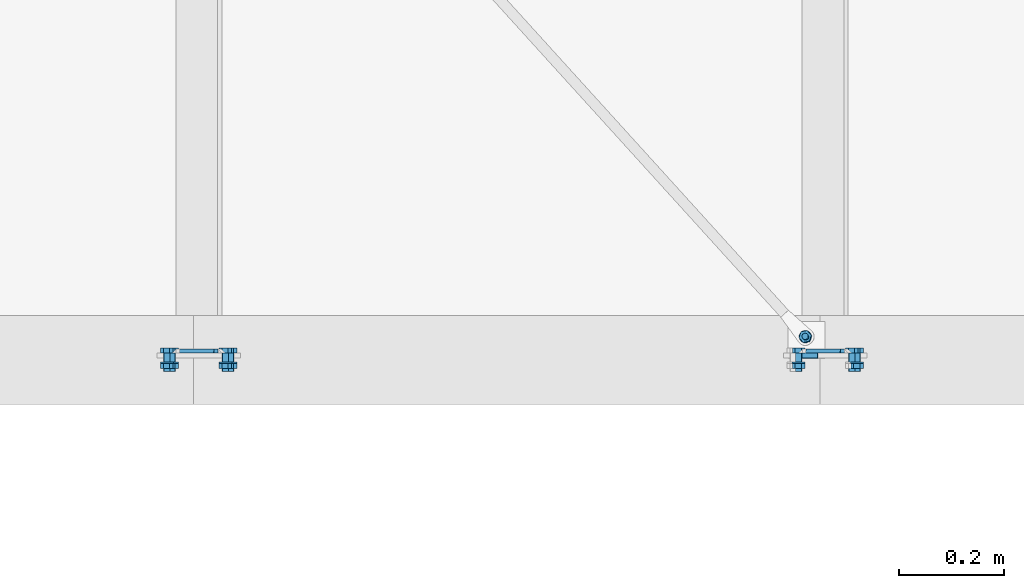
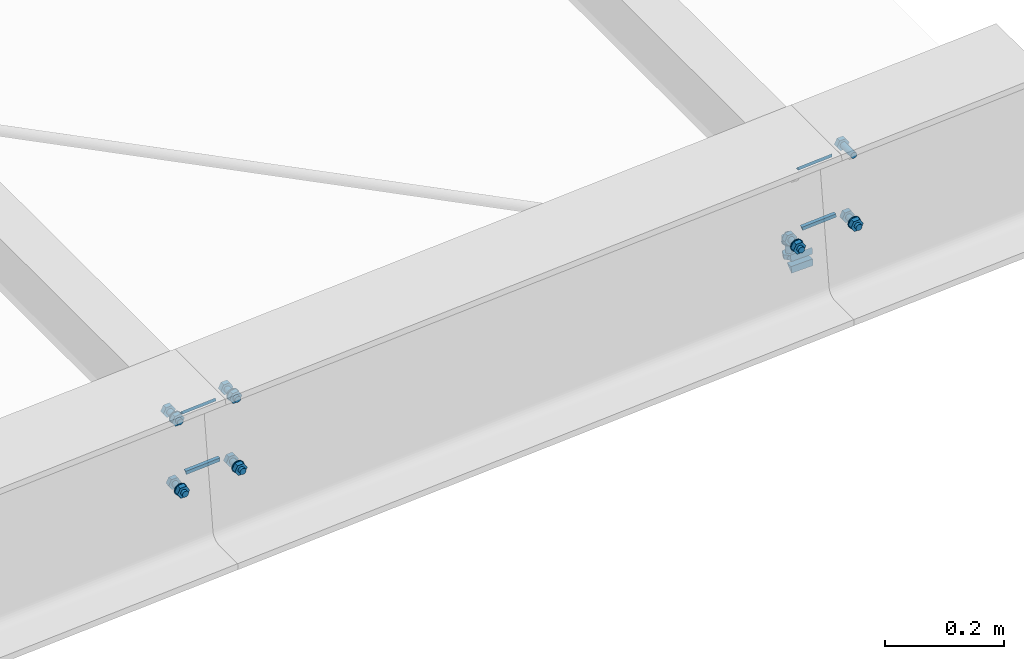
# One storey, part 31 of 72: 30 mechanical fasteners, 10 fasteners.
"""IFC4 building model written with IfcOpenShell, lengths in metres."""

import ifcopenshell
import ifcopenshell.guid

model = None  # the IFC model being written
_history = None  # IfcOwnerHistory: only IFC2X3 demands one
_inside = {}  # id of a spatial element -> (the spatial element, [elements in it])
_under = {}  # id of a project, library or spatial element -> (it, [spatial elements below it])
_declared = {}  # id of a project -> (the project, [libraries it declares])
_typed = {}  # id of a type object -> (the type object, [elements of that type])
_made_of = {}  # id of a material, layer set ... -> (it, [elements and type objects made of it])


def new_model(schema):
    """Start an empty IFC model of exactly this schema.

    Asked for "IFC4X3", IfcOpenShell would pick the latest addendum, in which some entities
    have other attributes; the version numbers below select the first issue.
    IFC2X3 requires an IfcOwnerHistory on every rooted entity: one is made here for all.
    """
    global model, _history
    if schema == "IFC4X3":
        model = ifcopenshell.file(schema_version=(4, 3, 0, 0))
    else:
        model = ifcopenshell.file(schema=schema)
    _inside.clear()
    _under.clear()
    _declared.clear()
    _typed.clear()
    _made_of.clear()
    _history = None
    if model.schema == "IFC2X3":
        org = make("IfcOrganization", Name="unknown")
        user = make(
            "IfcPersonAndOrganization",
            ThePerson=make("IfcPerson", FamilyName="unknown"),
            TheOrganization=org,
        )
        app = make(
            "IfcApplication",
            ApplicationDeveloper=org,
            Version="unknown",
            ApplicationFullName="unknown",
            ApplicationIdentifier="unknown",
        )
        _history = make(
            "IfcOwnerHistory",
            OwningUser=user,
            OwningApplication=app,
            ChangeAction="ADDED",
            CreationDate=0,
        )
    return model


def make(cls, **values):
    """One entity of the class cls with the attributes given. An attribute that is None is left unset."""
    return model.create_entity(
        cls, **{name: value for name, value in values.items() if value is not None}
    )


def rooted(cls, **values):
    """An entity with a GlobalId (a new one), such as an element, a storey or a relation."""
    return make(cls, GlobalId=ifcopenshell.guid.new(), OwnerHistory=_history, **values)


def si_unit(unit_type, name, prefix=None):
    """IfcSIUnit, for example si_unit("LENGTHUNIT", "METRE", prefix="MILLI")."""
    return make("IfcSIUnit", UnitType=unit_type, Prefix=prefix, Name=name)


def assignment(units):
    """IfcUnitAssignment: the units of a project."""
    return None if units is None else make("IfcUnitAssignment", Units=units)


def point(xyz):
    """IfcCartesianPoint."""
    return None if xyz is None else make("IfcCartesianPoint", Coordinates=xyz)


def direction(xyz):
    """IfcDirection."""
    return None if xyz is None else make("IfcDirection", DirectionRatios=xyz)


def frame(location, z_axis=None, x_axis=None):
    """IfcAxis2Placement3D, a coordinate frame: its origin and axes. An axis left out is left unset."""
    return make(
        "IfcAxis2Placement3D",
        Location=point(location),
        Axis=direction(z_axis),
        RefDirection=direction(x_axis),
    )


def origin_with_axes():
    """The frame at (0, 0, 0) with the z axis (0, 0, 1) and the x axis (1, 0, 0) written out."""
    return frame((0.0, 0.0, 0.0), z_axis=(0.0, 0.0, 1.0), x_axis=(1.0, 0.0, 0.0))


def place(relative_to, where):
    """IfcLocalPlacement: puts the frame where relative to a parent placement (None: the world)."""
    return make(
        "IfcLocalPlacement", PlacementRelTo=relative_to, RelativePlacement=where
    )


def context(
    kind, dimensions, precision=None, world=None, true_north=None, identifier=None
):
    """IfcGeometricRepresentationContext, for example the 3D "Model" context."""
    return make(
        "IfcGeometricRepresentationContext",
        ContextIdentifier=identifier,
        ContextType=kind,
        CoordinateSpaceDimension=dimensions,
        Precision=precision,
        WorldCoordinateSystem=world,
        TrueNorth=true_north,
    )


def project(units=None, contexts=None):
    """IfcProject with its units and contexts."""
    return rooted(
        "IfcProject",
        Name="project",
        RepresentationContexts=contexts,
        UnitsInContext=assignment(units),
    )


def spatial(cls, under=None, at=None, **own):
    """A site, building, storey or space (cls), placed at a placement, below another one or the project."""
    s = rooted(cls, ObjectPlacement=at, **own)
    if under is not None:
        _under.setdefault(under.id(), (under, []))[1].append(s)
    return s


def polyline(points):
    """IfcPolyline through the points."""
    return make("IfcPolyline", Points=[point(p) for p in points])


def outline(outer, holes=None, kind="AREA"):
    """IfcArbitraryClosedProfileDef: a profile drawn as a closed curve; with holes, ...WithVoids."""
    if holes is None:
        return make("IfcArbitraryClosedProfileDef", ProfileType=kind, OuterCurve=outer)
    return make(
        "IfcArbitraryProfileDefWithVoids",
        ProfileType=kind,
        OuterCurve=outer,
        InnerCurves=holes,
    )


def extrude(swept, where, along, depth):
    """IfcExtrudedAreaSolid: the profile swept, set in the frame where, extruded along a direction by depth."""
    return make(
        "IfcExtrudedAreaSolid",
        SweptArea=swept,
        Position=where,
        ExtrudedDirection=direction(along),
        Depth=depth,
    )


def shape(context_of_items, identifier, shape_type, items):
    """IfcShapeRepresentation: the items that make up one representation, for example the "Body"."""
    return make(
        "IfcShapeRepresentation",
        ContextOfItems=context_of_items,
        RepresentationIdentifier=identifier,
        RepresentationType=shape_type,
        Items=items,
    )


def made_of(thing, what):
    """Note that an element or type object is made of a material, layer set ...; save() writes the relation."""
    if what is not None:
        _made_of.setdefault(what.id(), (what, []))[1].append(thing)
    return thing


def type_object(cls, material=None, **own):
    """A type object (cls), such as IfcWallType, which elements share."""
    return made_of(rooted(cls, **own), material)


def element(
    cls,
    number,
    at=None,
    inside=None,
    cuts=None,
    type_object=None,
    material=None,
    context=None,
    identifier="Body",
    shape_type=None,
    held_by="IfcProductDefinitionShape",
    body=None,
    shapes=None,
    **own,
):
    """One element of the class cls, such as IfcWall. Its Tag is "e" and its number.

    at: its placement. inside: the storey or other place that contains it. cuts: it is an
    opening in that element (IfcRelVoidsElement). A single representation is given by context,
    identifier, shape_type and body (its items); several are given by shapes. held_by: the class
    of the entity that holds the representations. save() writes the other relations.
    """
    e = rooted(cls, Tag="e%d" % number, ObjectPlacement=at, **own)
    if body is not None:
        shapes = [shape(context, identifier, shape_type, body)]
    if shapes is not None:
        e.Representation = make(held_by, Representations=shapes)
    if inside is not None:
        _inside.setdefault(inside.id(), (inside, []))[1].append(e)
    if cuts is not None:
        rooted(
            "IfcRelVoidsElement", RelatingBuildingElement=cuts, RelatedOpeningElement=e
        )
    if type_object is not None:
        _typed.setdefault(type_object.id(), (type_object, []))[1].append(e)
    return made_of(e, material)


def aggregate(whole, parts):
    """IfcRelAggregates: a whole, such as a stair, and the parts it consists of."""
    return rooted("IfcRelAggregates", RelatingObject=whole, RelatedObjects=parts)


def save(model, path):
    """Write the relations noted so far, then the file.

    IfcRelAggregates (storeys below a building ...), IfcRelContainedInSpatialStructure (elements
    in a storey), IfcRelDefinesByType, IfcRelAssociatesMaterial and IfcRelDeclares: one each for
    every whole, place, type object, material and project.
    """
    for whole, parts in _under.values():
        aggregate(whole, parts)
    for where, things in _inside.values():
        rooted(
            "IfcRelContainedInSpatialStructure",
            RelatedElements=things,
            RelatingStructure=where,
        )
    for kind, things in _typed.values():
        rooted("IfcRelDefinesByType", RelatedObjects=things, RelatingType=kind)
    for what, things in _made_of.values():
        rooted("IfcRelAssociatesMaterial", RelatedObjects=things, RelatingMaterial=what)
    for by, libraries in _declared.values():
        rooted("IfcRelDeclares", RelatingContext=by, RelatedDefinitions=libraries)
    model.write(path)


model = new_model("IFC4")

# Units and contexts
model_context = context("Model", 3, precision=1e-05, world=origin_with_axes())
ifc_project = project(units=[si_unit("LENGTHUNIT", "METRE"), si_unit("AREAUNIT", "SQUARE_METRE"), si_unit("VOLUMEUNIT", "CUBIC_METRE"), si_unit("MASSUNIT", "GRAM", prefix="KILO"), si_unit("TIMEUNIT", "SECOND"), si_unit("PLANEANGLEUNIT", "RADIAN"), si_unit("SOLIDANGLEUNIT", "STERADIAN"), si_unit("THERMODYNAMICTEMPERATUREUNIT", "DEGREE_CELSIUS")], contexts=[model_context])

# Site, building, storey
placement_1 = place(None, origin_with_axes())
site = spatial("IfcSite", under=ifc_project, at=placement_1, Name="Italia", CompositionType="ELEMENT")
building = spatial("IfcBuilding", under=site, at=placement_1, Name="Pensilina", CompositionType="ELEMENT")
storey = spatial("IfcBuildingStorey", under=building, at=placement_1, Name="Storey 0", CompositionType="ELEMENT", Elevation=0.0)

# Fasteners
fastener_type_1 = type_object("IfcFastenerType", Name="Collegamento 0501_0502", PredefinedType="WELD")
placement_2 = place(placement_1, origin_with_axes())
fastener_1_placement = place(placement_2, origin_with_axes())
element("IfcFastener", 1, at=fastener_1_placement, inside=storey, type_object=fastener_type_1, Name="Collegamento 0501_0502", context=model_context, shape_type="SweptSolid", body=[
    extrude(outline(polyline([(0.0, 0.0, 0.0), (0.00717336, -0.00695825, 0.0), (0.0, -0.00695825, 0.0), (0.0, 0.0, 0.0)])), frame((4.57513, 0.01395, 4.00786), z_axis=(0.997731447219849, 0.0, 0.06731953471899), x_axis=(0.0, 1.0, 0.0)), (0.0, 0.0, 1.0), 0.0661003),
])
fastener_type_2 = type_object("IfcFastenerType", Name="Collegamento 0501_0502", PredefinedType="WELD")
fastener_2_placement = place(placement_2, origin_with_axes())
element("IfcFastener", 2, at=fastener_2_placement, inside=storey, type_object=fastener_type_2, Name="Collegamento 0501_0502", context=model_context, shape_type="SweptSolid", body=[
    extrude(outline(polyline([(0.0, 0.0, 0.0), (-0.00717336, 0.00695848, 0.0), (0.0, 0.00695848, 0.0), (0.0, 0.0, 0.0)])), frame((4.65009, 0.01395, 3.8788), z_axis=(-0.997731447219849, 0.0, -0.06731953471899), x_axis=(0.0, -1.0, 0.0)), (0.0, 0.0, 1.0), 0.0661003),
])
fastener_type_3 = type_object("IfcFastenerType", Name="Collegamento 0501_0502", PredefinedType="WELD")
fastener_3_placement = place(placement_2, origin_with_axes())
element("IfcFastener", 3, at=fastener_3_placement, inside=storey, type_object=fastener_type_3, Name="Collegamento 0501_0502", context=model_context, shape_type="SweptSolid", body=[
    extrude(outline(polyline([(0.0, 0.0, 0.0), (0.00717336, -0.00695825, 0.0), (0.0, -0.00695825, 0.0), (0.0, 0.0, 0.0)])), frame((4.57513, 0.01395, 4.00786), z_axis=(0.997731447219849, 0.0, 0.06731953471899), x_axis=(0.0, 1.0, 0.0)), (0.0, 0.0, 1.0), 0.0661003),
])
fastener_type_4 = type_object("IfcFastenerType", Name="Collegamento 0501_0502", PredefinedType="WELD")
fastener_4_placement = place(placement_2, origin_with_axes())
element("IfcFastener", 4, at=fastener_4_placement, inside=storey, type_object=fastener_type_4, Name="Collegamento 0501_0502", context=model_context, shape_type="SweptSolid", body=[
    extrude(outline(polyline([(0.0, 0.0, 0.0), (-0.00717336, 0.00695848, 0.0), (0.0, 0.00695848, 0.0), (0.0, 0.0, 0.0)])), frame((4.65009, 0.01395, 3.8788), z_axis=(-0.997731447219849, 0.0, -0.06731953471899), x_axis=(0.0, -1.0, 0.0)), (0.0, 0.0, 1.0), 0.0661003),
])

# Mechanical fasteners
mechanical_fastener_type_1 = type_object("IfcMechanicalFastenerType", Name="Collegamento 0501_0502", PredefinedType="BOLT")
mechanical_fastener_1_placement = place(placement_2, origin_with_axes())
element("IfcMechanicalFastener", 5, at=mechanical_fastener_1_placement, inside=storey, type_object=mechanical_fastener_type_1, Name="Collegamento 0501_0502", NominalDiameter=0.0119998, context=model_context, shape_type="SweptSolid", body=[
    extrude(outline(polyline([(0.0, 0.0, 0.0), (-0.0119729, 0.000807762, 0.0), (-0.0172596, 0.0115805, 0.0), (-0.0105739, 0.0215454, 0.0), (0.00139904, 0.0207374, 0.0), (0.00668573, 0.00996494, 0.0), (0.0, 0.0, 0.0)])), frame((4.66831, 0.014, 3.8605), z_axis=(0.0, 1.0, 0.0), x_axis=(-1.0, 0.0, 0.0)), (0.0, 0.0, 1.0), 0.0096),
])
mechanical_fastener_type_2 = type_object("IfcMechanicalFastenerType", Name="Collegamento 0501_0502", PredefinedType="BOLT")
mechanical_fastener_2_placement = place(placement_2, origin_with_axes())
element("IfcMechanicalFastener", 6, at=mechanical_fastener_2_placement, inside=storey, type_object=mechanical_fastener_type_2, Name="Collegamento 0501_0502", NominalDiameter=0.012, context=model_context, shape_type="SweptSolid", body=[
    extrude(outline(polyline([(0.0, 0.0, 0.0), (-0.000204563, -0.00155282, 0.0), (-0.000803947, -0.00300002, 0.0), (-0.00175762, -0.00424266, 0.0), (-0.00300026, -0.00519609, 0.0), (-0.00444698, -0.00579548, 0.0), (-0.00600004, -0.00600004, 0.0), (-0.0075531, -0.00579548, 0.0), (-0.00899982, -0.00519609, 0.0), (-0.0102425, -0.00424266, 0.0), (-0.0111961, -0.00300002, 0.0), (-0.0117955, -0.00155282, 0.0), (-0.0120001, 0.0, 0.0), (-0.0117955, 0.00155282, 0.0), (-0.0111961, 0.00300002, 0.0), (-0.0102425, 0.00424266, 0.0), (-0.00899982, 0.00519609, 0.0), (-0.0075531, 0.00579548, 0.0), (-0.00600004, 0.00600004, 0.0), (-0.00444698, 0.00579548, 0.0), (-0.00300026, 0.00519609, 0.0), (-0.00175762, 0.00424266, 0.0), (-0.000803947, 0.00300002, 0.0), (-0.000204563, 0.00155282, 0.0), (0.0, 0.0, 0.0)])), frame((4.6676, -0.022, 3.87127), z_axis=(0.0, 1.0, 0.0), x_axis=(-1.0, 0.0, 0.0)), (0.0, 0.0, 1.0), 0.036),
])
mechanical_fastener_type_3 = type_object("IfcMechanicalFastenerType", Name="Collegamento 0501_0502", PredefinedType="BOLT")
mechanical_fastener_3_placement = place(placement_2, origin_with_axes())
element("IfcMechanicalFastener", 7, at=mechanical_fastener_3_placement, inside=storey, type_object=mechanical_fastener_type_3, Name="Collegamento 0501_0502", NominalDiameter=0.0119998, context=model_context, shape_type="SweptSolid", body=[
    extrude(outline(polyline([(0.0, 0.0, 0.0), (-0.0119729, 0.000807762, 0.0), (-0.0172596, 0.0115805, 0.0), (-0.0105739, 0.0215454, 0.0), (0.00139904, 0.0207374, 0.0), (0.00668573, 0.00996494, 0.0), (0.0, 0.0, 0.0)])), frame((4.66831, -0.0156, 3.8605), z_axis=(0.0, 1.0, 0.0), x_axis=(-1.0, 0.0, 0.0)), (0.0, 0.0, 1.0), 0.0096),
])
mechanical_fastener_type_4 = type_object("IfcMechanicalFastenerType", Name="Collegamento 0501_0502", PredefinedType="BOLT")
mechanical_fastener_4_placement = place(placement_2, origin_with_axes())
element("IfcMechanicalFastener", 8, at=mechanical_fastener_4_placement, inside=storey, type_object=mechanical_fastener_type_4, Name="Collegamento 0501_0502", NominalDiameter=0.024, context=model_context, shape_type="SweptSolid", body=[
    extrude(outline(polyline([(0.0, 0.0, 0.0), (-0.000409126, -0.00310588, 0.0), (-0.00160789, -0.00600004, 0.0), (-0.00351477, -0.00848532, 0.0), (-0.00600004, -0.0103922, 0.0), (-0.00889444, -0.0115912, 0.0), (-0.0120001, -0.0120001, 0.0), (-0.0151057, -0.0115912, 0.0), (-0.0180001, -0.0103922, 0.0), (-0.0204854, -0.00848532, 0.0), (-0.0223923, -0.00600004, 0.0), (-0.023591, -0.00310588, 0.0), (-0.0240002, 0.0, 0.0), (-0.023591, 0.00310588, 0.0), (-0.0223923, 0.00600004, 0.0), (-0.0204854, 0.00848532, 0.0), (-0.0180001, 0.0103922, 0.0), (-0.0151057, 0.0115912, 0.0), (-0.0120001, 0.0120001, 0.0), (-0.00889444, 0.0115912, 0.0), (-0.00600004, 0.0103922, 0.0), (-0.00351477, 0.00848532, 0.0), (-0.00160789, 0.00600004, 0.0), (-0.000409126, 0.00310588, 0.0), (0.0, 0.0, 0.0)])), frame((4.6616, -0.006, 3.87127), z_axis=(0.0, 1.0, 0.0), x_axis=(-1.0, 0.0, 0.0)), (0.0, 0.0, 1.0), 0.002),
])
mechanical_fastener_type_5 = type_object("IfcMechanicalFastenerType", Name="Collegamento 0501_0502", PredefinedType="BOLT")
mechanical_fastener_5_placement = place(placement_2, origin_with_axes())
element("IfcMechanicalFastener", 9, at=mechanical_fastener_5_placement, inside=storey, type_object=mechanical_fastener_type_5, Name="Collegamento 0501_0502", NominalDiameter=0.0119998, context=model_context, shape_type="SweptSolid", body=[
    extrude(outline(polyline([(0.0, 0.0, 0.0), (-0.0119729, 0.000808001, 0.0), (-0.0172596, 0.0115805, 0.0), (-0.0105739, 0.0215454, 0.0), (0.00139904, 0.0207376, 0.0), (0.00668573, 0.00996494, 0.0), (0.0, 0.0, 0.0)])), frame((4.55656, 0.014, 3.85296), z_axis=(0.0, 1.0, 0.0), x_axis=(-1.0, 0.0, 0.0)), (0.0, 0.0, 1.0), 0.0096),
])
mechanical_fastener_type_6 = type_object("IfcMechanicalFastenerType", Name="Collegamento 0501_0502", PredefinedType="BOLT")
mechanical_fastener_6_placement = place(placement_2, origin_with_axes())
element("IfcMechanicalFastener", 10, at=mechanical_fastener_6_placement, inside=storey, type_object=mechanical_fastener_type_6, Name="Collegamento 0501_0502", NominalDiameter=0.012, context=model_context, shape_type="SweptSolid", body=[
    extrude(outline(polyline([(0.0, 0.0, 0.0), (-0.000204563, -0.00155282, 0.0), (-0.000803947, -0.00300002, 0.0), (-0.00175762, -0.00424266, 0.0), (-0.00300026, -0.00519609, 0.0), (-0.00444698, -0.00579548, 0.0), (-0.00600004, -0.00600004, 0.0), (-0.0075531, -0.00579548, 0.0), (-0.00899982, -0.00519609, 0.0), (-0.0102425, -0.00424266, 0.0), (-0.0111961, -0.00300002, 0.0), (-0.0117955, -0.00155282, 0.0), (-0.0120001, 0.0, 0.0), (-0.0117955, 0.00155282, 0.0), (-0.0111961, 0.00300002, 0.0), (-0.0102425, 0.00424266, 0.0), (-0.00899982, 0.00519609, 0.0), (-0.0075531, 0.00579548, 0.0), (-0.00600004, 0.00600004, 0.0), (-0.00444698, 0.00579548, 0.0), (-0.00300026, 0.00519609, 0.0), (-0.00175762, 0.00424266, 0.0), (-0.000803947, 0.00300002, 0.0), (-0.000204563, 0.00155282, 0.0), (0.0, 0.0, 0.0)])), frame((4.55585, -0.022, 3.86373), z_axis=(0.0, 1.0, 0.0), x_axis=(-1.0, 0.0, 0.0)), (0.0, 0.0, 1.0), 0.036),
])
mechanical_fastener_type_7 = type_object("IfcMechanicalFastenerType", Name="Collegamento 0501_0502", PredefinedType="BOLT")
mechanical_fastener_7_placement = place(placement_2, origin_with_axes())
element("IfcMechanicalFastener", 11, at=mechanical_fastener_7_placement, inside=storey, type_object=mechanical_fastener_type_7, Name="Collegamento 0501_0502", NominalDiameter=0.0119998, context=model_context, shape_type="SweptSolid", body=[
    extrude(outline(polyline([(0.0, 0.0, 0.0), (-0.0119729, 0.000808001, 0.0), (-0.0172596, 0.0115805, 0.0), (-0.0105739, 0.0215454, 0.0), (0.00139904, 0.0207376, 0.0), (0.00668573, 0.00996494, 0.0), (0.0, 0.0, 0.0)])), frame((4.55656, -0.0156, 3.85296), z_axis=(0.0, 1.0, 0.0), x_axis=(-1.0, 0.0, 0.0)), (0.0, 0.0, 1.0), 0.0096),
])
mechanical_fastener_type_8 = type_object("IfcMechanicalFastenerType", Name="Collegamento 0501_0502", PredefinedType="BOLT")
mechanical_fastener_8_placement = place(placement_2, origin_with_axes())
element("IfcMechanicalFastener", 12, at=mechanical_fastener_8_placement, inside=storey, type_object=mechanical_fastener_type_8, Name="Collegamento 0501_0502", NominalDiameter=0.024, context=model_context, shape_type="SweptSolid", body=[
    extrude(outline(polyline([(0.0, 0.0, 0.0), (-0.000409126, -0.00310588, 0.0), (-0.00160789, -0.00600004, 0.0), (-0.00351477, -0.00848532, 0.0), (-0.00600004, -0.0103922, 0.0), (-0.00889444, -0.0115912, 0.0), (-0.0120001, -0.0120001, 0.0), (-0.0151057, -0.0115912, 0.0), (-0.0180001, -0.0103922, 0.0), (-0.0204854, -0.00848532, 0.0), (-0.0223923, -0.00600004, 0.0), (-0.023591, -0.00310588, 0.0), (-0.0240002, 0.0, 0.0), (-0.023591, 0.00310588, 0.0), (-0.0223923, 0.00600004, 0.0), (-0.0204854, 0.00848532, 0.0), (-0.0180001, 0.0103922, 0.0), (-0.0151057, 0.0115912, 0.0), (-0.0120001, 0.0120001, 0.0), (-0.00889444, 0.0115912, 0.0), (-0.00600004, 0.0103922, 0.0), (-0.00351477, 0.00848532, 0.0), (-0.00160789, 0.00600004, 0.0), (-0.000409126, 0.00310588, 0.0), (0.0, 0.0, 0.0)])), frame((4.54985, -0.006, 3.86373), z_axis=(0.0, 1.0, 0.0), x_axis=(-1.0, 0.0, 0.0)), (0.0, 0.0, 1.0), 0.002),
])
mechanical_fastener_type_9 = type_object("IfcMechanicalFastenerType", Name="Collegamento 0501_0502", PredefinedType="BOLT")
mechanical_fastener_9_placement = place(placement_2, origin_with_axes())
element("IfcMechanicalFastener", 13, at=mechanical_fastener_9_placement, inside=storey, type_object=mechanical_fastener_type_9, Name="Collegamento 0501_0502", NominalDiameter=0.012, context=model_context, shape_type="SweptSolid", body=[
    extrude(outline(polyline([(0.0, 0.0, 0.0), (-0.0119729, 0.000807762, 0.0), (-0.0172596, 0.0115805, 0.0), (-0.0105739, 0.0215454, 0.0), (0.00139904, 0.0207376, 0.0), (0.00668573, 0.00996494, 0.0), (0.0, 0.0, 0.0)])), frame((4.65808, 0.014, 4.01215), z_axis=(0.0, 1.0, 0.0), x_axis=(-1.0, 0.0, 0.0)), (0.0, 0.0, 1.0), 0.0096),
])
mechanical_fastener_type_10 = type_object("IfcMechanicalFastenerType", Name="Collegamento 0501_0502", PredefinedType="BOLT")
mechanical_fastener_10_placement = place(placement_2, origin_with_axes())
element("IfcMechanicalFastener", 14, at=mechanical_fastener_10_placement, inside=storey, type_object=mechanical_fastener_type_10, Name="Collegamento 0501_0502", NominalDiameter=0.012, context=model_context, shape_type="SweptSolid", body=[
    extrude(outline(polyline([(0.0, 0.0, 0.0), (-0.000204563, -0.00155306, 0.0), (-0.000803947, -0.00299978, 0.0), (-0.00175762, -0.00424242, 0.0), (-0.00300026, -0.00519609, 0.0), (-0.00444698, -0.00579548, 0.0), (-0.00600004, -0.00600004, 0.0), (-0.0075531, -0.00579548, 0.0), (-0.00899982, -0.00519609, 0.0), (-0.0102425, -0.00424242, 0.0), (-0.0111961, -0.00299978, 0.0), (-0.0117955, -0.00155306, 0.0), (-0.0120001, 0.0, 0.0), (-0.0117955, 0.00155306, 0.0), (-0.0111961, 0.00299978, 0.0), (-0.0102425, 0.00424242, 0.0), (-0.00899982, 0.00519609, 0.0), (-0.0075531, 0.00579548, 0.0), (-0.00600004, 0.00600004, 0.0), (-0.00444698, 0.00579548, 0.0), (-0.00300026, 0.00519609, 0.0), (-0.00175762, 0.00424242, 0.0), (-0.000803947, 0.00299978, 0.0), (-0.000204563, 0.00155306, 0.0), (0.0, 0.0, 0.0)])), frame((4.65736, -0.022, 4.02292), z_axis=(0.0, 1.0, 0.0), x_axis=(-1.0, 0.0, 0.0)), (0.0, 0.0, 1.0), 0.036),
])
mechanical_fastener_type_11 = type_object("IfcMechanicalFastenerType", Name="Collegamento 0501_0502", PredefinedType="BOLT")
mechanical_fastener_11_placement = place(placement_2, origin_with_axes())
element("IfcMechanicalFastener", 15, at=mechanical_fastener_11_placement, inside=storey, type_object=mechanical_fastener_type_11, Name="Collegamento 0501_0502", NominalDiameter=0.012, context=model_context, shape_type="SweptSolid", body=[
    extrude(outline(polyline([(0.0, 0.0, 0.0), (-0.0119729, 0.000807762, 0.0), (-0.0172596, 0.0115805, 0.0), (-0.0105739, 0.0215454, 0.0), (0.00139904, 0.0207376, 0.0), (0.00668573, 0.00996494, 0.0), (0.0, 0.0, 0.0)])), frame((4.65808, -0.0156, 4.01215), z_axis=(0.0, 1.0, 0.0), x_axis=(-1.0, 0.0, 0.0)), (0.0, 0.0, 1.0), 0.0096),
])
mechanical_fastener_type_12 = type_object("IfcMechanicalFastenerType", Name="Collegamento 0501_0502", PredefinedType="BOLT")
mechanical_fastener_12_placement = place(placement_2, origin_with_axes())
element("IfcMechanicalFastener", 16, at=mechanical_fastener_12_placement, inside=storey, type_object=mechanical_fastener_type_12, Name="Collegamento 0501_0502", NominalDiameter=0.024, context=model_context, shape_type="SweptSolid", body=[
    extrude(outline(polyline([(0.0, 0.0, 0.0), (-0.000409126, -0.00310564, 0.0), (-0.00160789, -0.00600004, 0.0), (-0.00351477, -0.00848532, 0.0), (-0.00600004, -0.0103922, 0.0), (-0.00889444, -0.011591, 0.0), (-0.0120001, -0.0120001, 0.0), (-0.0151057, -0.011591, 0.0), (-0.0180001, -0.0103922, 0.0), (-0.0204854, -0.00848532, 0.0), (-0.0223923, -0.00600004, 0.0), (-0.023591, -0.00310564, 0.0), (-0.0240002, 0.0, 0.0), (-0.023591, 0.00310564, 0.0), (-0.0223923, 0.00600004, 0.0), (-0.0204854, 0.00848532, 0.0), (-0.0180001, 0.0103922, 0.0), (-0.0151057, 0.011591, 0.0), (-0.0120001, 0.0120001, 0.0), (-0.00889444, 0.011591, 0.0), (-0.00600004, 0.0103922, 0.0), (-0.00351477, 0.00848532, 0.0), (-0.00160789, 0.00600004, 0.0), (-0.000409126, 0.00310564, 0.0), (0.0, 0.0, 0.0)])), frame((4.65136, -0.006, 4.02292), z_axis=(0.0, 1.0, 0.0), x_axis=(-1.0, 0.0, 0.0)), (0.0, 0.0, 1.0), 0.002),
])
mechanical_fastener_type_13 = type_object("IfcMechanicalFastenerType", Name="Collegamento 0501_0502", PredefinedType="BOLT")
mechanical_fastener_13_placement = place(placement_2, origin_with_axes())
element("IfcMechanicalFastener", 17, at=mechanical_fastener_13_placement, inside=storey, type_object=mechanical_fastener_type_13, Name="Collegamento 0501_0502", NominalDiameter=0.012, context=model_context, shape_type="SweptSolid", body=[
    extrude(outline(polyline([(0.0, 0.0, 0.0), (-0.0119729, 0.000807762, 0.0), (-0.0172596, 0.0115805, 0.0), (-0.0105739, 0.0215454, 0.0), (0.00139904, 0.0207376, 0.0), (0.00668573, 0.00996494, 0.0), (0.0, 0.0, 0.0)])), frame((4.54633, 0.014, 4.00461), z_axis=(0.0, 1.0, 0.0), x_axis=(-1.0, 0.0, 0.0)), (0.0, 0.0, 1.0), 0.0096),
])
mechanical_fastener_type_14 = type_object("IfcMechanicalFastenerType", Name="Collegamento 0501_0502", PredefinedType="BOLT")
mechanical_fastener_14_placement = place(placement_2, origin_with_axes())
element("IfcMechanicalFastener", 18, at=mechanical_fastener_14_placement, inside=storey, type_object=mechanical_fastener_type_14, Name="Collegamento 0501_0502", NominalDiameter=0.012, context=model_context, shape_type="SweptSolid", body=[
    extrude(outline(polyline([(0.0, 0.0, 0.0), (-0.000204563, -0.00155306, 0.0), (-0.000803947, -0.00299978, 0.0), (-0.00175762, -0.00424242, 0.0), (-0.00300026, -0.00519609, 0.0), (-0.00444698, -0.00579548, 0.0), (-0.00600004, -0.00600004, 0.0), (-0.0075531, -0.00579548, 0.0), (-0.00899982, -0.00519609, 0.0), (-0.0102425, -0.00424242, 0.0), (-0.0111961, -0.00299978, 0.0), (-0.0117955, -0.00155306, 0.0), (-0.0120001, 0.0, 0.0), (-0.0117955, 0.00155306, 0.0), (-0.0111961, 0.00299978, 0.0), (-0.0102425, 0.00424242, 0.0), (-0.00899982, 0.00519609, 0.0), (-0.0075531, 0.00579548, 0.0), (-0.00600004, 0.00600004, 0.0), (-0.00444698, 0.00579548, 0.0), (-0.00300026, 0.00519609, 0.0), (-0.00175762, 0.00424242, 0.0), (-0.000803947, 0.00299978, 0.0), (-0.000204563, 0.00155306, 0.0), (0.0, 0.0, 0.0)])), frame((4.54562, -0.022, 4.01538), z_axis=(0.0, 1.0, 0.0), x_axis=(-1.0, 0.0, 0.0)), (0.0, 0.0, 1.0), 0.036),
])
mechanical_fastener_type_15 = type_object("IfcMechanicalFastenerType", Name="Collegamento 0501_0502", PredefinedType="BOLT")
mechanical_fastener_15_placement = place(placement_2, origin_with_axes())
element("IfcMechanicalFastener", 19, at=mechanical_fastener_15_placement, inside=storey, type_object=mechanical_fastener_type_15, Name="Collegamento 0501_0502", NominalDiameter=0.012, context=model_context, shape_type="SweptSolid", body=[
    extrude(outline(polyline([(0.0, 0.0, 0.0), (-0.0119729, 0.000807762, 0.0), (-0.0172596, 0.0115805, 0.0), (-0.0105739, 0.0215454, 0.0), (0.00139904, 0.0207376, 0.0), (0.00668573, 0.00996494, 0.0), (0.0, 0.0, 0.0)])), frame((4.54633, -0.0156, 4.00461), z_axis=(0.0, 1.0, 0.0), x_axis=(-1.0, 0.0, 0.0)), (0.0, 0.0, 1.0), 0.0096),
])
mechanical_fastener_type_16 = type_object("IfcMechanicalFastenerType", Name="Collegamento 0501_0502", PredefinedType="BOLT")
mechanical_fastener_16_placement = place(placement_2, origin_with_axes())
element("IfcMechanicalFastener", 20, at=mechanical_fastener_16_placement, inside=storey, type_object=mechanical_fastener_type_16, Name="Collegamento 0501_0502", NominalDiameter=0.024, context=model_context, shape_type="SweptSolid", body=[
    extrude(outline(polyline([(0.0, 0.0, 0.0), (-0.000409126, -0.00310564, 0.0), (-0.00160789, -0.00600004, 0.0), (-0.00351477, -0.00848532, 0.0), (-0.00600004, -0.0103922, 0.0), (-0.00889444, -0.011591, 0.0), (-0.0120001, -0.0120001, 0.0), (-0.0151057, -0.011591, 0.0), (-0.0180001, -0.0103922, 0.0), (-0.0204854, -0.00848532, 0.0), (-0.0223923, -0.00600004, 0.0), (-0.023591, -0.00310564, 0.0), (-0.0240002, 0.0, 0.0), (-0.023591, 0.00310564, 0.0), (-0.0223923, 0.00600004, 0.0), (-0.0204854, 0.00848532, 0.0), (-0.0180001, 0.0103922, 0.0), (-0.0151057, 0.011591, 0.0), (-0.0120001, 0.0120001, 0.0), (-0.00889444, 0.011591, 0.0), (-0.00600004, 0.0103922, 0.0), (-0.00351477, 0.00848532, 0.0), (-0.00160789, 0.00600004, 0.0), (-0.000409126, 0.00310564, 0.0), (0.0, 0.0, 0.0)])), frame((4.53962, -0.006, 4.01538), z_axis=(0.0, 1.0, 0.0), x_axis=(-1.0, 0.0, 0.0)), (0.0, 0.0, 1.0), 0.002),
])
mechanical_fastener_type_17 = type_object("IfcMechanicalFastenerType", Name="Collegamento 0601_0202", PredefinedType="BOLT")
mechanical_fastener_17_placement = place(placement_2, origin_with_axes())
element("IfcMechanicalFastener", 21, at=mechanical_fastener_17_placement, inside=storey, type_object=mechanical_fastener_type_17, Name="Collegamento 0601_0202", NominalDiameter=0.0119996, context=model_context, shape_type="SweptSolid", body=[
    extrude(outline(polyline([(0.0, 0.0, 0.0), (-3.8147e-06, 0.0120001, 0.0), (-0.0103984, 0.0179963, 0.0), (-0.0207882, 0.0119934, 0.0), (-0.0207849, -6.67572e-06, 0.0), (-0.0103903, -0.00600338, 0.0), (0.0, 0.0, 0.0)])), frame((5.7761, 0.0556056, 3.89755), z_axis=(0.030994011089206, -0.034151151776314, -0.998935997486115), x_axis=(0.740506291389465, 0.672049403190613, 0.0)), (0.0, 0.0, 1.0), 0.00960013),
])
mechanical_fastener_type_18 = type_object("IfcMechanicalFastenerType", Name="Collegamento 0601_0202", PredefinedType="BOLT")
mechanical_fastener_18_placement = place(placement_2, origin_with_axes())
element("IfcMechanicalFastener", 22, at=mechanical_fastener_18_placement, inside=storey, type_object=mechanical_fastener_type_18, Name="Collegamento 0601_0202", NominalDiameter=0.012, context=model_context, shape_type="SweptSolid", body=[
    extrude(outline(polyline([(0.0, 0.0, 0.0), (-0.000204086, -0.00155258, 0.0), (-0.000803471, -0.00299978, 0.0), (-0.00175714, -0.00424242, 0.0), (-0.00299978, -0.00519609, 0.0), (-0.00444698, -0.00579548, 0.0), (-0.00599957, -0.00599957, 0.0), (-0.00755262, -0.00579548, 0.0), (-0.00899982, -0.00519609, 0.0), (-0.0102425, -0.00424242, 0.0), (-0.0111961, -0.00299978, 0.0), (-0.0117955, -0.00155306, 0.0), (-0.0119996, 4.76837e-07, 0.0), (-0.0117955, 0.00155306, 0.0), (-0.0111957, 0.00300026, 0.0), (-0.0102425, 0.0042429, 0.0), (-0.00899982, 0.00519609, 0.0), (-0.00755262, 0.00579596, 0.0), (-0.00600004, 0.00600004, 0.0), (-0.00444698, 0.00579596, 0.0), (-0.00299978, 0.00519657, 0.0), (-0.00175714, 0.0042429, 0.0), (-0.000803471, 0.00300026, 0.0), (-0.000204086, 0.00155306, 0.0), (0.0, 0.0, 0.0)])), frame((5.7757, 0.0495135, 3.93578), z_axis=(0.030981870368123, -0.034151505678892, -0.998936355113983), x_axis=(0.740640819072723, 0.671901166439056, 0.0)), (0.0, 0.0, 1.0), 0.038),
])
mechanical_fastener_type_19 = type_object("IfcMechanicalFastenerType", Name="Collegamento 0601_0202", PredefinedType="BOLT")
mechanical_fastener_19_placement = place(placement_2, origin_with_axes())
element("IfcMechanicalFastener", 23, at=mechanical_fastener_19_placement, inside=storey, type_object=mechanical_fastener_type_19, Name="Collegamento 0601_0202", NominalDiameter=0.012, context=model_context, shape_type="SweptSolid", body=[
    extrude(outline(polyline([(0.0, 0.0, 0.0), (-3.8147e-06, 0.0120001, 0.0), (-0.0103979, 0.0179968, 0.0), (-0.0207887, 0.0119934, 0.0), (-0.0207849, -6.67572e-06, 0.0), (-0.0103908, -0.00600338, 0.0), (0.0, 0.0, 0.0)])), frame((5.77513, 0.0566848, 3.92912), z_axis=(0.030994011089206, -0.034151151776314, -0.998935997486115), x_axis=(0.740506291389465, 0.672049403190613, 0.0)), (0.0, 0.0, 1.0), 0.00960013),
])
mechanical_fastener_type_20 = type_object("IfcMechanicalFastenerType", Name="Collegamento 0601_0202", PredefinedType="BOLT")
mechanical_fastener_20_placement = place(placement_2, origin_with_axes())
element("IfcMechanicalFastener", 24, at=mechanical_fastener_20_placement, inside=storey, type_object=mechanical_fastener_type_20, Name="Collegamento 0601_0202", NominalDiameter=0.024, context=model_context, shape_type="SweptSolid", body=[
    extrude(outline(polyline([(0.0, 0.0, 0.0), (-0.000409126, -0.00310612, 0.0), (-0.00160789, -0.00600004, 0.0), (-0.00351477, -0.00848532, 0.0), (-0.00600004, -0.0103927, 0.0), (-0.00889397, -0.011591, 0.0), (-0.0120001, -0.0120001, 0.0), (-0.0151062, -0.0115914, 0.0), (-0.0180001, -0.0103927, 0.0), (-0.0204854, -0.00848579, 0.0), (-0.0223923, -0.00600004, 0.0), (-0.0235915, -0.00310612, 0.0), (-0.0240002, 0.0, 0.0), (-0.023591, 0.00310564, 0.0), (-0.0223927, 0.00599957, 0.0), (-0.0204854, 0.00848532, 0.0), (-0.0180001, 0.0103922, 0.0), (-0.0151062, 0.011591, 0.0), (-0.0120001, 0.0119996, 0.0), (-0.00889397, 0.011591, 0.0), (-0.00600004, 0.0103922, 0.0), (-0.00351477, 0.00848532, 0.0), (-0.00160789, 0.00600004, 0.0), (-0.000409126, 0.00310564, 0.0), (0.0, 0.0, 0.0)])), frame((5.78064, 0.0530005, 3.9198), z_axis=(0.030993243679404, -0.034148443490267, -0.998936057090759), x_axis=(0.740488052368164, 0.672069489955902, 0.0)), (0.0, 0.0, 1.0), 0.00200008),
])

# Fasteners
fastener_type_5 = type_object("IfcFastenerType", Name="Collegamento 0601_0202", PredefinedType="WELD")
fastener_5_placement = place(placement_2, origin_with_axes())
element("IfcFastener", 25, at=fastener_5_placement, inside=storey, type_object=fastener_type_5, Name="Collegamento 0601_0202", context=model_context, shape_type="SweptSolid", body=[
    extrude(outline(polyline([(0.0, 0.0, 0.0), (0.0136956, -0.0142241, 0.0), (-0.000469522, -0.0137401, 0.0), (0.0, 0.0, 0.0)])), frame((5.75259, 0.00424725, 3.9223), z_axis=(0.999519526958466, 3.87132332e-07, 0.030994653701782), x_axis=(-3.87318437e-07, 1.0, 0.0)), (0.0, 0.0, 1.0), 0.0420997),
])
fastener_type_6 = type_object("IfcFastenerType", Name="Collegamento 0601_0202", PredefinedType="WELD")
fastener_6_placement = place(placement_2, origin_with_axes())
element("IfcFastener", 26, at=fastener_6_placement, inside=storey, type_object=fastener_type_6, Name="Collegamento 0601_0202", context=model_context, shape_type="SweptSolid", body=[
    extrude(outline(polyline([(0.0, 0.0, 0.0), (-0.0146346, 0.0132561, 0.0), (-0.000469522, 0.0137401, 0.0), (0.0, 0.0, 0.0)])), frame((5.79583, 0.00297012, 3.88625), z_axis=(-0.999519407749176, -3.87127869e-07, -0.030999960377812), x_axis=(3.87314003e-07, -1.0, 0.0)), (0.0, 0.0, 1.0), 0.0421002),
])
fastener_type_7 = type_object("IfcFastenerType", Name="Collegamento 0601_0602", PredefinedType="WELD")
fastener_7_placement = place(placement_2, origin_with_axes())
element("IfcFastener", 27, at=fastener_7_placement, inside=storey, type_object=fastener_type_7, Name="Collegamento 0601_0602", context=model_context, shape_type="SweptSolid", body=[
    extrude(outline(polyline([(0.0, 0.0, 0.0), (0.00717336, -0.00695825, 0.0), (0.0, -0.00695825, 0.0), (0.0, 0.0, 0.0)])), frame((5.77233, 0.01395, 4.09011), z_axis=(0.997731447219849, 0.0, 0.067320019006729), x_axis=(0.0, 1.0, 0.0)), (0.0, 0.0, 1.0), 0.0660999),
])
fastener_type_8 = type_object("IfcFastenerType", Name="Collegamento 0601_0602", PredefinedType="WELD")
fastener_8_placement = place(placement_2, origin_with_axes())
element("IfcFastener", 28, at=fastener_8_placement, inside=storey, type_object=fastener_type_8, Name="Collegamento 0601_0602", context=model_context, shape_type="SweptSolid", body=[
    extrude(outline(polyline([(0.0, 0.0, 0.0), (-0.00717336, 0.00695825, 0.0), (0.0, 0.00695825, 0.0), (0.0, 0.0, 0.0)])), frame((5.84729, 0.01395, 3.96105), z_axis=(-0.997731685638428, 0.0, -0.067315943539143), x_axis=(0.0, -1.0, 0.0)), (0.0, 0.0, 1.0), 0.0661003),
])
fastener_type_9 = type_object("IfcFastenerType", Name="Collegamento 0601_0602", PredefinedType="WELD")
fastener_9_placement = place(placement_2, origin_with_axes())
element("IfcFastener", 29, at=fastener_9_placement, inside=storey, type_object=fastener_type_9, Name="Collegamento 0601_0602", context=model_context, shape_type="SweptSolid", body=[
    extrude(outline(polyline([(0.0, 0.0, 0.0), (0.00717336, -0.00695825, 0.0), (0.0, -0.00695825, 0.0), (0.0, 0.0, 0.0)])), frame((5.77233, 0.01395, 4.09011), z_axis=(0.997731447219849, 0.0, 0.067320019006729), x_axis=(0.0, 1.0, 0.0)), (0.0, 0.0, 1.0), 0.0660999),
])
fastener_type_10 = type_object("IfcFastenerType", Name="Collegamento 0601_0602", PredefinedType="WELD")
fastener_10_placement = place(placement_2, origin_with_axes())
element("IfcFastener", 30, at=fastener_10_placement, inside=storey, type_object=fastener_type_10, Name="Collegamento 0601_0602", context=model_context, shape_type="SweptSolid", body=[
    extrude(outline(polyline([(0.0, 0.0, 0.0), (-0.00717336, 0.00695825, 0.0), (0.0, 0.00695825, 0.0), (0.0, 0.0, 0.0)])), frame((5.84729, 0.01395, 3.96105), z_axis=(-0.997731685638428, 0.0, -0.067315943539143), x_axis=(0.0, -1.0, 0.0)), (0.0, 0.0, 1.0), 0.0661003),
])

# Mechanical fasteners
mechanical_fastener_type_21 = type_object("IfcMechanicalFastenerType", Name="Collegamento 0601_0602", PredefinedType="BOLT")
mechanical_fastener_21_placement = place(placement_2, origin_with_axes())
element("IfcMechanicalFastener", 31, at=mechanical_fastener_21_placement, inside=storey, type_object=mechanical_fastener_type_21, Name="Collegamento 0601_0602", NominalDiameter=0.0119998, context=model_context, shape_type="SweptSolid", body=[
    extrude(outline(polyline([(0.0, 0.0, 0.0), (-0.0119729, 0.000807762, 0.0), (-0.0172596, 0.0115805, 0.0), (-0.0105739, 0.0215454, 0.0), (0.00139904, 0.0207374, 0.0), (0.00668573, 0.00996494, 0.0), (0.0, 0.0, 0.0)])), frame((5.86552, 0.014, 3.94275), z_axis=(0.0, 1.0, 0.0), x_axis=(-1.0, 0.0, 0.0)), (0.0, 0.0, 1.0), 0.0096),
])
mechanical_fastener_type_22 = type_object("IfcMechanicalFastenerType", Name="Collegamento 0601_0602", PredefinedType="BOLT")
mechanical_fastener_22_placement = place(placement_2, origin_with_axes())
element("IfcMechanicalFastener", 32, at=mechanical_fastener_22_placement, inside=storey, type_object=mechanical_fastener_type_22, Name="Collegamento 0601_0602", NominalDiameter=0.012, context=model_context, shape_type="SweptSolid", body=[
    extrude(outline(polyline([(0.0, 0.0, 0.0), (-0.000204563, -0.00155282, 0.0), (-0.000803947, -0.00300002, 0.0), (-0.00175762, -0.00424266, 0.0), (-0.00300026, -0.00519609, 0.0), (-0.00444698, -0.00579548, 0.0), (-0.00600004, -0.00600004, 0.0), (-0.0075531, -0.00579548, 0.0), (-0.00899982, -0.00519609, 0.0), (-0.0102425, -0.00424266, 0.0), (-0.0111961, -0.00300002, 0.0), (-0.0117955, -0.00155282, 0.0), (-0.0120001, 0.0, 0.0), (-0.0117955, 0.00155282, 0.0), (-0.0111961, 0.00300002, 0.0), (-0.0102425, 0.00424266, 0.0), (-0.00899982, 0.00519609, 0.0), (-0.0075531, 0.00579548, 0.0), (-0.00600004, 0.00600004, 0.0), (-0.00444698, 0.00579548, 0.0), (-0.00300026, 0.00519609, 0.0), (-0.00175762, 0.00424266, 0.0), (-0.000803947, 0.00300002, 0.0), (-0.000204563, 0.00155282, 0.0), (0.0, 0.0, 0.0)])), frame((5.8648, -0.022, 3.95352), z_axis=(0.0, 1.0, 0.0), x_axis=(-1.0, 0.0, 0.0)), (0.0, 0.0, 1.0), 0.036),
])
mechanical_fastener_type_23 = type_object("IfcMechanicalFastenerType", Name="Collegamento 0601_0602", PredefinedType="BOLT")
mechanical_fastener_23_placement = place(placement_2, origin_with_axes())
element("IfcMechanicalFastener", 33, at=mechanical_fastener_23_placement, inside=storey, type_object=mechanical_fastener_type_23, Name="Collegamento 0601_0602", NominalDiameter=0.0119998, context=model_context, shape_type="SweptSolid", body=[
    extrude(outline(polyline([(0.0, 0.0, 0.0), (-0.0119729, 0.000807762, 0.0), (-0.0172596, 0.0115805, 0.0), (-0.0105739, 0.0215454, 0.0), (0.00139904, 0.0207374, 0.0), (0.00668573, 0.00996494, 0.0), (0.0, 0.0, 0.0)])), frame((5.86552, -0.0156, 3.94275), z_axis=(0.0, 1.0, 0.0), x_axis=(-1.0, 0.0, 0.0)), (0.0, 0.0, 1.0), 0.0096),
])
mechanical_fastener_type_24 = type_object("IfcMechanicalFastenerType", Name="Collegamento 0601_0602", PredefinedType="BOLT")
mechanical_fastener_24_placement = place(placement_2, origin_with_axes())
element("IfcMechanicalFastener", 34, at=mechanical_fastener_24_placement, inside=storey, type_object=mechanical_fastener_type_24, Name="Collegamento 0601_0602", NominalDiameter=0.024, context=model_context, shape_type="SweptSolid", body=[
    extrude(outline(polyline([(0.0, 0.0, 0.0), (-0.000409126, -0.00310588, 0.0), (-0.00160789, -0.00600004, 0.0), (-0.00351477, -0.00848532, 0.0), (-0.00600004, -0.0103922, 0.0), (-0.00889444, -0.0115912, 0.0), (-0.0120001, -0.0120001, 0.0), (-0.0151057, -0.0115912, 0.0), (-0.0180001, -0.0103922, 0.0), (-0.0204854, -0.00848532, 0.0), (-0.0223923, -0.00600004, 0.0), (-0.023591, -0.00310588, 0.0), (-0.0240002, 0.0, 0.0), (-0.023591, 0.00310588, 0.0), (-0.0223923, 0.00600004, 0.0), (-0.0204854, 0.00848532, 0.0), (-0.0180001, 0.0103922, 0.0), (-0.0151057, 0.0115912, 0.0), (-0.0120001, 0.0120001, 0.0), (-0.00889444, 0.0115912, 0.0), (-0.00600004, 0.0103922, 0.0), (-0.00351477, 0.00848532, 0.0), (-0.00160789, 0.00600004, 0.0), (-0.000409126, 0.00310588, 0.0), (0.0, 0.0, 0.0)])), frame((5.8588, -0.006, 3.95352), z_axis=(0.0, 1.0, 0.0), x_axis=(-1.0, 0.0, 0.0)), (0.0, 0.0, 1.0), 0.002),
])
mechanical_fastener_type_25 = type_object("IfcMechanicalFastenerType", Name="Collegamento 0601_0602", PredefinedType="BOLT")
mechanical_fastener_25_placement = place(placement_2, origin_with_axes())
element("IfcMechanicalFastener", 35, at=mechanical_fastener_25_placement, inside=storey, type_object=mechanical_fastener_type_25, Name="Collegamento 0601_0602", NominalDiameter=0.0119998, context=model_context, shape_type="SweptSolid", body=[
    extrude(outline(polyline([(0.0, 0.0, 0.0), (-0.0119729, 0.000807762, 0.0), (-0.0172596, 0.0115805, 0.0), (-0.0105739, 0.0215454, 0.0), (0.00139904, 0.0207374, 0.0), (0.00668573, 0.00996494, 0.0), (0.0, 0.0, 0.0)])), frame((5.75377, 0.014, 3.93521), z_axis=(0.0, 1.0, 0.0), x_axis=(-1.0, 0.0, 0.0)), (0.0, 0.0, 1.0), 0.0096),
])
mechanical_fastener_type_26 = type_object("IfcMechanicalFastenerType", Name="Collegamento 0601_0602", PredefinedType="BOLT")
mechanical_fastener_26_placement = place(placement_2, origin_with_axes())
element("IfcMechanicalFastener", 36, at=mechanical_fastener_26_placement, inside=storey, type_object=mechanical_fastener_type_26, Name="Collegamento 0601_0602", NominalDiameter=0.012, context=model_context, shape_type="SweptSolid", body=[
    extrude(outline(polyline([(0.0, 0.0, 0.0), (-0.000204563, -0.00155282, 0.0), (-0.000803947, -0.00300002, 0.0), (-0.00175762, -0.00424266, 0.0), (-0.00300026, -0.00519609, 0.0), (-0.00444698, -0.00579548, 0.0), (-0.00600004, -0.00600004, 0.0), (-0.0075531, -0.00579548, 0.0), (-0.00899982, -0.00519609, 0.0), (-0.0102425, -0.00424266, 0.0), (-0.0111961, -0.00300002, 0.0), (-0.0117955, -0.00155282, 0.0), (-0.0120001, 0.0, 0.0), (-0.0117955, 0.00155282, 0.0), (-0.0111961, 0.00300002, 0.0), (-0.0102425, 0.00424266, 0.0), (-0.00899982, 0.00519609, 0.0), (-0.0075531, 0.00579548, 0.0), (-0.00600004, 0.00600004, 0.0), (-0.00444698, 0.00579548, 0.0), (-0.00300026, 0.00519609, 0.0), (-0.00175762, 0.00424266, 0.0), (-0.000803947, 0.00300002, 0.0), (-0.000204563, 0.00155282, 0.0), (0.0, 0.0, 0.0)])), frame((5.75306, -0.022, 3.94598), z_axis=(0.0, 1.0, 0.0), x_axis=(-1.0, 0.0, 0.0)), (0.0, 0.0, 1.0), 0.036),
])
mechanical_fastener_type_27 = type_object("IfcMechanicalFastenerType", Name="Collegamento 0601_0602", PredefinedType="BOLT")
mechanical_fastener_27_placement = place(placement_2, origin_with_axes())
element("IfcMechanicalFastener", 37, at=mechanical_fastener_27_placement, inside=storey, type_object=mechanical_fastener_type_27, Name="Collegamento 0601_0602", NominalDiameter=0.0119998, context=model_context, shape_type="SweptSolid", body=[
    extrude(outline(polyline([(0.0, 0.0, 0.0), (-0.0119729, 0.000807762, 0.0), (-0.0172596, 0.0115805, 0.0), (-0.0105739, 0.0215454, 0.0), (0.00139904, 0.0207374, 0.0), (0.00668573, 0.00996494, 0.0), (0.0, 0.0, 0.0)])), frame((5.75377, -0.0156, 3.93521), z_axis=(0.0, 1.0, 0.0), x_axis=(-1.0, 0.0, 0.0)), (0.0, 0.0, 1.0), 0.0096),
])
mechanical_fastener_type_28 = type_object("IfcMechanicalFastenerType", Name="Collegamento 0601_0602", PredefinedType="BOLT")
mechanical_fastener_28_placement = place(placement_2, origin_with_axes())
element("IfcMechanicalFastener", 38, at=mechanical_fastener_28_placement, inside=storey, type_object=mechanical_fastener_type_28, Name="Collegamento 0601_0602", NominalDiameter=0.024, context=model_context, shape_type="SweptSolid", body=[
    extrude(outline(polyline([(0.0, 0.0, 0.0), (-0.000409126, -0.00310588, 0.0), (-0.00160789, -0.00600004, 0.0), (-0.00351477, -0.00848532, 0.0), (-0.00600004, -0.0103922, 0.0), (-0.00889444, -0.0115912, 0.0), (-0.0120001, -0.0120001, 0.0), (-0.0151057, -0.0115912, 0.0), (-0.0180001, -0.0103922, 0.0), (-0.0204854, -0.00848532, 0.0), (-0.0223923, -0.00600004, 0.0), (-0.023591, -0.00310588, 0.0), (-0.0240002, 0.0, 0.0), (-0.023591, 0.00310588, 0.0), (-0.0223923, 0.00600004, 0.0), (-0.0204854, 0.00848532, 0.0), (-0.0180001, 0.0103922, 0.0), (-0.0151057, 0.0115912, 0.0), (-0.0120001, 0.0120001, 0.0), (-0.00889444, 0.0115912, 0.0), (-0.00600004, 0.0103922, 0.0), (-0.00351477, 0.00848532, 0.0), (-0.00160789, 0.00600004, 0.0), (-0.000409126, 0.00310588, 0.0), (0.0, 0.0, 0.0)])), frame((5.74706, -0.006, 3.94598), z_axis=(0.0, 1.0, 0.0), x_axis=(-1.0, 0.0, 0.0)), (0.0, 0.0, 1.0), 0.002),
])
mechanical_fastener_type_29 = type_object("IfcMechanicalFastenerType", Name="Collegamento 0601_0602", PredefinedType="BOLT")
mechanical_fastener_29_placement = place(placement_2, origin_with_axes())
element("IfcMechanicalFastener", 39, at=mechanical_fastener_29_placement, inside=storey, type_object=mechanical_fastener_type_29, Name="Collegamento 0601_0602", NominalDiameter=0.0119996, context=model_context, shape_type="SweptSolid", body=[
    extrude(outline(polyline([(0.0, 0.0, 0.0), (-0.0119729, 0.000807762, 0.0), (-0.0172596, 0.0115805, 0.0), (-0.0105739, 0.0215449, 0.0), (0.00139904, 0.0207372, 0.0), (0.00668573, 0.00996447, 0.0), (0.0, 0.0, 0.0)])), frame((5.85528, 0.014, 4.0944), z_axis=(0.0, 1.0, 0.0), x_axis=(-1.0, 0.0, 0.0)), (0.0, 0.0, 1.0), 0.0096),
])
mechanical_fastener_type_30 = type_object("IfcMechanicalFastenerType", Name="Collegamento 0601_0602", PredefinedType="BOLT")
mechanical_fastener_30_placement = place(placement_2, origin_with_axes())
element("IfcMechanicalFastener", 40, at=mechanical_fastener_30_placement, inside=storey, type_object=mechanical_fastener_type_30, Name="Collegamento 0601_0602", NominalDiameter=0.012, context=model_context, shape_type="SweptSolid", body=[
    extrude(outline(polyline([(0.0, 0.0, 0.0), (-0.000204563, -0.00155306, 0.0), (-0.000803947, -0.00299978, 0.0), (-0.00175762, -0.00424242, 0.0), (-0.00300026, -0.00519609, 0.0), (-0.00444698, -0.00579548, 0.0), (-0.00600004, -0.00600004, 0.0), (-0.0075531, -0.00579548, 0.0), (-0.00899982, -0.00519609, 0.0), (-0.0102425, -0.00424242, 0.0), (-0.0111961, -0.00299978, 0.0), (-0.0117955, -0.00155306, 0.0), (-0.0120001, 0.0, 0.0), (-0.0117955, 0.00155306, 0.0), (-0.0111961, 0.00299978, 0.0), (-0.0102425, 0.00424242, 0.0), (-0.00899982, 0.00519609, 0.0), (-0.0075531, 0.00579548, 0.0), (-0.00600004, 0.00600004, 0.0), (-0.00444698, 0.00579548, 0.0), (-0.00300026, 0.00519609, 0.0), (-0.00175762, 0.00424242, 0.0), (-0.000803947, 0.00299978, 0.0), (-0.000204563, 0.00155306, 0.0), (0.0, 0.0, 0.0)])), frame((5.85457, -0.022, 4.10518), z_axis=(0.0, 1.0, 0.0), x_axis=(-1.0, 0.0, 0.0)), (0.0, 0.0, 1.0), 0.036),
])

save(model, "model.ifc")
